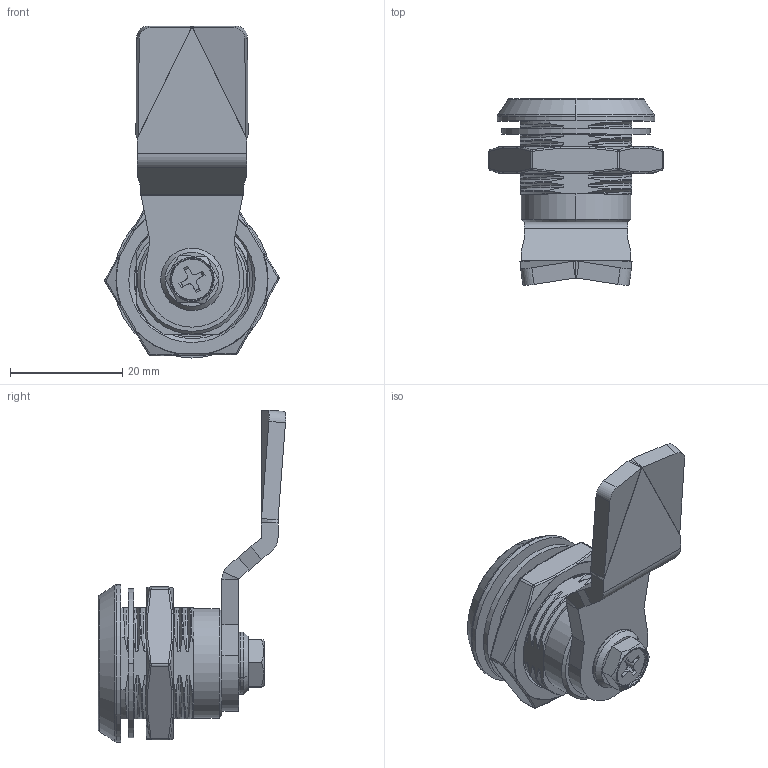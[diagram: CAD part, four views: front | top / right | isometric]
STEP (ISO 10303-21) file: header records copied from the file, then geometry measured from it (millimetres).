
FILE_DESCRIPTION (( 'STEP AP214' ), '1' );
FILE_NAME ('D3-1510.STEP', '2026-06-16T02:46:19', ( '' ), ( '' ), 'SwSTEP 2.0', 'SolidWorks 2020', '' );
FILE_SCHEMA (( 'AUTOMOTIVE_DESIGN' ));
Length unit declared in the file: millimetre
Products named in the file (11): D3-1510.sldasm-Part-5; D3-1510.sldasm-Part-2; D3-1510.sldasm-Part-7; D3-1510.sldasm-Part-10; D3-1510.sldasm-Part-1; D3-1510.sldasm-Part-8; D3-1510; D3-1510.sldasm-Part-4; D3-1510.sldasm-Part-3; D3-1510.sldasm-Part-9; D3-1510.sldasm-Part-6
Assembly tree (9 placements, depth 2):
  D3-1510
    D3-1510.sldasm-Part-1
    D3-1510.sldasm-Part-2
    D3-1510.sldasm-Part-4
    D3-1510.sldasm-Part-5
    D3-1510.sldasm-Part-6
    D3-1510.sldasm-Part-7
    D3-1510.sldasm-Part-8
    D3-1510.sldasm-Part-9
    D3-1510.sldasm-Part-10
  D3-1510.sldasm-Part-3
Bounding box: 31.02 x 33.36 x 59.11 mm (x, y, z)
Volume: 11146.1 mm3; surface area: 12189.1 mm2
Topology: 9 solids, 25 shells, 856 faces, 2219 edges, 1423 vertices
Faces by surface type: plane 291, bspline 287, cylinder 217, cone 38, torus 23
Entity records: 77855 total; most frequent: CARTESIAN_POINT 59288, ORIENTED_EDGE 4438, DIRECTION 2917, EDGE_CURVE 2219, VERTEX_POINT 1423, AXIS2_PLACEMENT_3D 994, VECTOR 929, LINE 929
